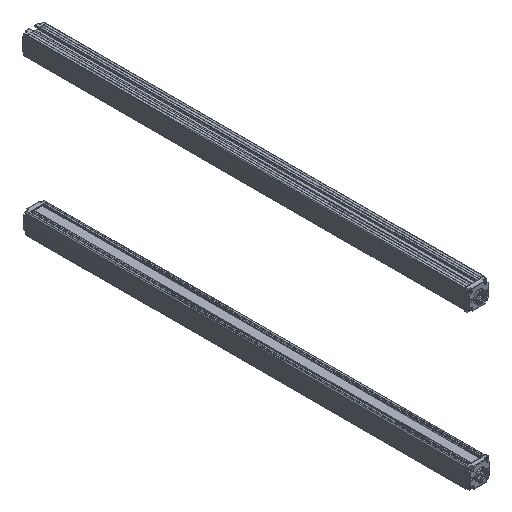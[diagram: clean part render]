
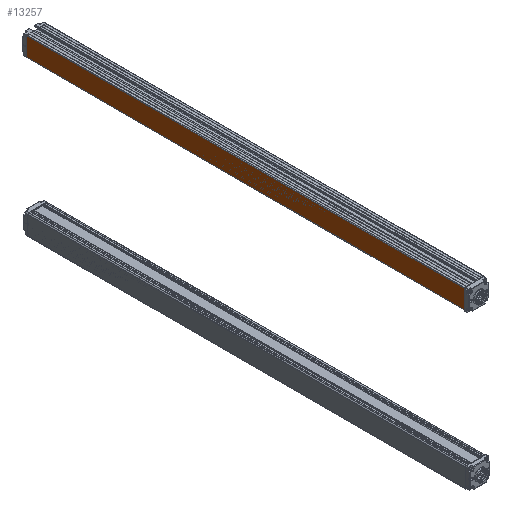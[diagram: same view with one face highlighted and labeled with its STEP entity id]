
A CAD part, isometric view. The second image highlights one B-rep face of the part: STEP entity #13257.
In plain terms, the highlighted planar face has unit normal (-1, 0, -0.009) as drawn and (-1, 0, 0) by its records, which use the part's own axes.
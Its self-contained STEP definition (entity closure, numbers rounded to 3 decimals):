
#148 = PLANE ( 'NONE',  #8731 ) ;
#477 = VECTOR ( 'NONE', #4088, 1000. ) ;
#917 = ORIENTED_EDGE ( 'NONE', *, *, #14098, .F. ) ;
#1103 = ORIENTED_EDGE ( 'NONE', *, *, #10833, .T. ) ;
#1327 = DIRECTION ( 'NONE',  ( 0., -1., 0. ) ) ;
#1817 = VERTEX_POINT ( 'NONE', #12679 ) ;
#2605 = EDGE_CURVE ( 'NONE', #5293, #6772, #8264, .T. ) ;
#4088 = DIRECTION ( 'NONE',  ( 0., -1., 0. ) ) ;
#4370 = VECTOR ( 'NONE', #5382, 1000. ) ;
#5035 = CARTESIAN_POINT ( 'NONE',  ( -15., 0., -16.693 ) ) ;
#5293 = VERTEX_POINT ( 'NONE', #16603 ) ;
#5382 = DIRECTION ( 'NONE',  ( 0., 0., 1. ) ) ;
#5711 = CARTESIAN_POINT ( 'NONE',  ( -15., 650., -16.9 ) ) ;
#6311 = LINE ( 'NONE', #11859, #15926 ) ;
#6772 = VERTEX_POINT ( 'NONE', #5035 ) ;
#7028 = VERTEX_POINT ( 'NONE', #15346 ) ;
#7384 = EDGE_CURVE ( 'NONE', #7028, #1817, #11017, .T. ) ;
#8264 = LINE ( 'NONE', #13811, #13746 ) ;
#8731 = AXIS2_PLACEMENT_3D ( 'NONE', #5711, #11260, #16815 ) ;
#9064 = EDGE_LOOP ( 'NONE', ( #917, #15965, #1103, #11248 ) ) ;
#10833 = EDGE_CURVE ( 'NONE', #6772, #1817, #6311, .T. ) ;
#11017 = LINE ( 'NONE', #16570, #477 ) ;
#11248 = ORIENTED_EDGE ( 'NONE', *, *, #7384, .F. ) ;
#11260 = DIRECTION ( 'NONE',  ( 1., 0., 0. ) ) ;
#11859 = CARTESIAN_POINT ( 'NONE',  ( -15., 0., -16.9 ) ) ;
#12300 = LINE ( 'NONE', #17843, #4370 ) ;
#12626 = FACE_OUTER_BOUND ( 'NONE', #9064, .T. ) ;
#12679 = CARTESIAN_POINT ( 'NONE',  ( -15., 0., 10.9 ) ) ;
#13257 = ADVANCED_FACE ( 'NONE', ( #12626 ), #148, .F. ) ;
#13746 = VECTOR ( 'NONE', #1327, 1000. ) ;
#13811 = CARTESIAN_POINT ( 'NONE',  ( -15., 650., -16.693 ) ) ;
#14098 = EDGE_CURVE ( 'NONE', #5293, #7028, #12300, .T. ) ;
#15346 = CARTESIAN_POINT ( 'NONE',  ( -15., 650., 10.9 ) ) ;
#15926 = VECTOR ( 'NONE', #17399, 1000. ) ;
#15965 = ORIENTED_EDGE ( 'NONE', *, *, #2605, .T. ) ;
#16570 = CARTESIAN_POINT ( 'NONE',  ( -15., 650., 10.9 ) ) ;
#16603 = CARTESIAN_POINT ( 'NONE',  ( -15., 650., -16.693 ) ) ;
#16815 = DIRECTION ( 'NONE',  ( 0., 0., -1. ) ) ;
#17399 = DIRECTION ( 'NONE',  ( 0., 0., 1. ) ) ;
#17843 = CARTESIAN_POINT ( 'NONE',  ( -15., 650., -16.9 ) ) ;
